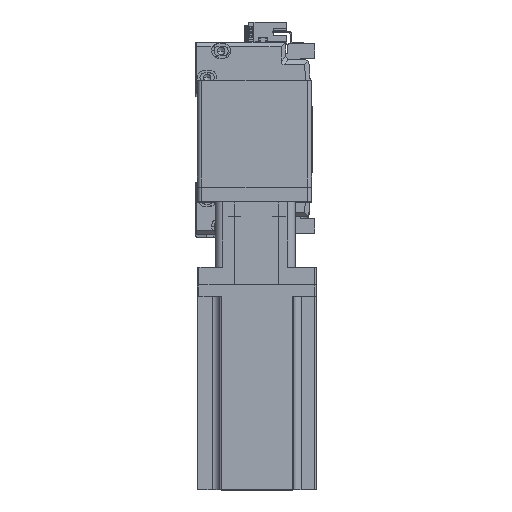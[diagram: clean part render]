
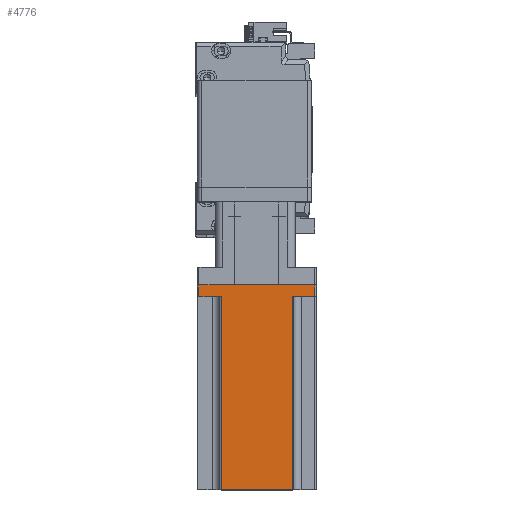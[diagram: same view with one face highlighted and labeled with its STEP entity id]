
A CAD part, top view. The second image highlights one B-rep face of the part: STEP entity #4776.
In plain terms, the highlighted planar face has unit normal (0, 0, 1) as drawn and (0, 1, 0) by its records, which use the part's own axes.
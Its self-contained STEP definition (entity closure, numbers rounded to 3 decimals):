
#993 = LINE ( 'NONE', #11679, #15110 ) ;
#1243 = DIRECTION ( 'NONE',  ( 0., 0., -1. ) ) ;
#1726 = DIRECTION ( 'NONE',  ( 1., 0., 0. ) ) ;
#2073 = CARTESIAN_POINT ( 'NONE',  ( -24., 40., 138.3 ) ) ;
#2107 = AXIS2_PLACEMENT_3D ( 'NONE', #13703, #5979, #1726 ) ;
#2345 = VERTEX_POINT ( 'NONE', #12128 ) ;
#2938 = EDGE_CURVE ( 'NONE', #7352, #32435, #14967, .T. ) ;
#3136 = FACE_OUTER_BOUND ( 'NONE', #35045, .T. ) ;
#3535 = EDGE_CURVE ( 'NONE', #4692, #41931, #4435, .T. ) ;
#3700 = CARTESIAN_POINT ( 'NONE',  ( -24., 40., 8. ) ) ;
#4435 = LINE ( 'NONE', #17148, #44415 ) ;
#4692 = VERTEX_POINT ( 'NONE', #36738 ) ;
#4776 = ADVANCED_FACE ( 'NONE', ( #3136 ), #10688, .F. ) ;
#5526 = CARTESIAN_POINT ( 'NONE',  ( 40., 40., 138.3 ) ) ;
#5938 = VECTOR ( 'NONE', #7862, 1000. ) ;
#5979 = DIRECTION ( 'NONE',  ( 0., -1., 0. ) ) ;
#7352 = VERTEX_POINT ( 'NONE', #3700 ) ;
#7479 = EDGE_CURVE ( 'NONE', #26428, #23010, #22576, .T. ) ;
#7862 = DIRECTION ( 'NONE',  ( 0., 0., -1. ) ) ;
#8115 = LINE ( 'NONE', #20707, #30032 ) ;
#8521 = LINE ( 'NONE', #19563, #27953 ) ;
#10688 = PLANE ( 'NONE',  #2107 ) ;
#11030 = CARTESIAN_POINT ( 'NONE',  ( 24., 40., 8. ) ) ;
#11679 = CARTESIAN_POINT ( 'NONE',  ( 40., 40., 0. ) ) ;
#11877 = ORIENTED_EDGE ( 'NONE', *, *, #43132, .T. ) ;
#12128 = CARTESIAN_POINT ( 'NONE',  ( 24., 40., 138.3 ) ) ;
#13703 = CARTESIAN_POINT ( 'NONE',  ( 40., 40., 138.3 ) ) ;
#14826 = CARTESIAN_POINT ( 'NONE',  ( -39., 40., 8. ) ) ;
#14967 = LINE ( 'NONE', #2073, #16175 ) ;
#15077 = VECTOR ( 'NONE', #24924, 1000. ) ;
#15110 = VECTOR ( 'NONE', #34824, 1000. ) ;
#15666 = EDGE_CURVE ( 'NONE', #2345, #41931, #8115, .T. ) ;
#16175 = VECTOR ( 'NONE', #31275, 1000. ) ;
#16344 = DIRECTION ( 'NONE',  ( 0., 0., 1. ) ) ;
#17057 = EDGE_CURVE ( 'NONE', #23010, #7352, #8521, .T. ) ;
#17148 = CARTESIAN_POINT ( 'NONE',  ( 25., 40., 8. ) ) ;
#18020 = EDGE_CURVE ( 'NONE', #4692, #31058, #47053, .T. ) ;
#19563 = CARTESIAN_POINT ( 'NONE',  ( -25., 40., 8. ) ) ;
#20707 = CARTESIAN_POINT ( 'NONE',  ( 24., 40., 138.3 ) ) ;
#21358 = VECTOR ( 'NONE', #16344, 1000. ) ;
#21830 = ORIENTED_EDGE ( 'NONE', *, *, #7479, .T. ) ;
#22576 = LINE ( 'NONE', #39481, #21358 ) ;
#23010 = VERTEX_POINT ( 'NONE', #14826 ) ;
#23429 = DIRECTION ( 'NONE',  ( 1., 0., 0. ) ) ;
#24924 = DIRECTION ( 'NONE',  ( -1., 0., 0. ) ) ;
#26428 = VERTEX_POINT ( 'NONE', #27919 ) ;
#26601 = ORIENTED_EDGE ( 'NONE', *, *, #2938, .T. ) ;
#27919 = CARTESIAN_POINT ( 'NONE',  ( -39., 40., 0. ) ) ;
#27953 = VECTOR ( 'NONE', #23429, 1000. ) ;
#28161 = ORIENTED_EDGE ( 'NONE', *, *, #3535, .F. ) ;
#28410 = ORIENTED_EDGE ( 'NONE', *, *, #33971, .F. ) ;
#30032 = VECTOR ( 'NONE', #1243, 1000. ) ;
#30397 = CARTESIAN_POINT ( 'NONE',  ( 39., 40., 0. ) ) ;
#31058 = VERTEX_POINT ( 'NONE', #30397 ) ;
#31151 = CARTESIAN_POINT ( 'NONE',  ( 39., 40., 138.3 ) ) ;
#31275 = DIRECTION ( 'NONE',  ( 0., 0., 1. ) ) ;
#31436 = ORIENTED_EDGE ( 'NONE', *, *, #18020, .T. ) ;
#32435 = VERTEX_POINT ( 'NONE', #34030 ) ;
#32700 = ORIENTED_EDGE ( 'NONE', *, *, #17057, .T. ) ;
#33971 = EDGE_CURVE ( 'NONE', #2345, #32435, #35612, .T. ) ;
#34030 = CARTESIAN_POINT ( 'NONE',  ( -24., 40., 138.3 ) ) ;
#34824 = DIRECTION ( 'NONE',  ( -1., 0., 0. ) ) ;
#35045 = EDGE_LOOP ( 'NONE', ( #32700, #26601, #28410, #44397, #28161, #31436, #11877, #21830 ) ) ;
#35612 = LINE ( 'NONE', #5526, #15077 ) ;
#36738 = CARTESIAN_POINT ( 'NONE',  ( 39., 40., 8. ) ) ;
#39313 = DIRECTION ( 'NONE',  ( -1., 0., 0. ) ) ;
#39481 = CARTESIAN_POINT ( 'NONE',  ( -39., 40., 138.3 ) ) ;
#41931 = VERTEX_POINT ( 'NONE', #11030 ) ;
#43132 = EDGE_CURVE ( 'NONE', #31058, #26428, #993, .T. ) ;
#44397 = ORIENTED_EDGE ( 'NONE', *, *, #15666, .T. ) ;
#44415 = VECTOR ( 'NONE', #39313, 1000. ) ;
#47053 = LINE ( 'NONE', #31151, #5938 ) ;
